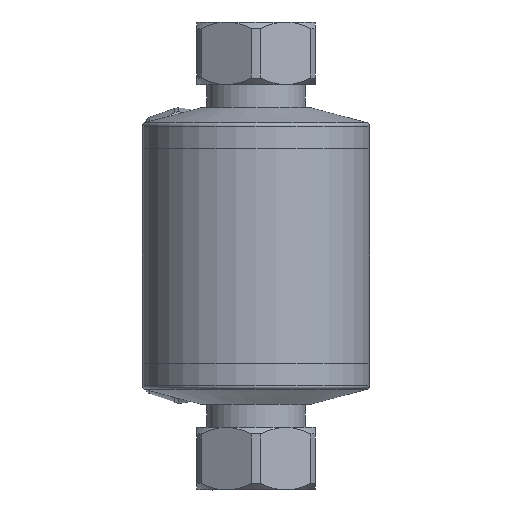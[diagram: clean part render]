
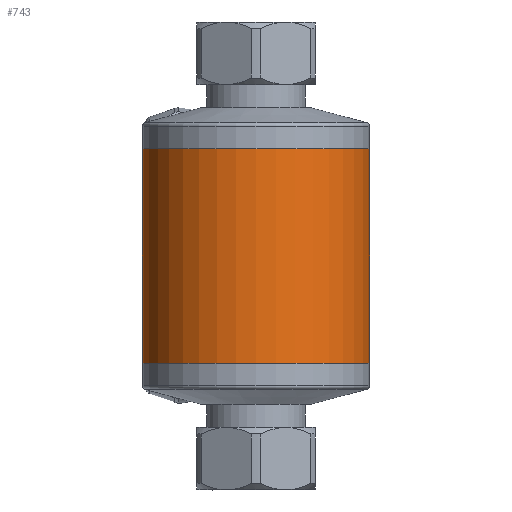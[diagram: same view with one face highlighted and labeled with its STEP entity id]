
A CAD part, front view. The second image highlights one B-rep face of the part: STEP entity #743.
In plain terms, the highlighted cylindrical face has radius 34.5 mm (diameter 69 mm), a full revolution.
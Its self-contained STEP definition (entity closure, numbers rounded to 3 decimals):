
#31=ELLIPSE('',#2802,48.79,34.5);
#32=ELLIPSE('',#2803,48.79,34.5);
#357=LINE('',#11066,#395);
#358=LINE('',#11070,#396);
#395=VECTOR('',#3462,1.);
#396=VECTOR('',#3465,1.);
#743=ADVANCED_FACE('',(#925,#926,#927),#800,.T.);
#800=CYLINDRICAL_SURFACE('',#2806,34.5);
#925=FACE_BOUND('',#1160,.T.);
#926=FACE_BOUND('',#1161,.T.);
#927=FACE_BOUND('',#1162,.T.);
#1160=EDGE_LOOP('',(#1786,#1787,#1788,#1789));
#1161=EDGE_LOOP('',(#1790));
#1162=EDGE_LOOP('',(#1791));
#1786=ORIENTED_EDGE('',*,*,#2337,.T.);
#1787=ORIENTED_EDGE('',*,*,#2338,.F.);
#1788=ORIENTED_EDGE('',*,*,#2339,.T.);
#1789=ORIENTED_EDGE('',*,*,#2340,.F.);
#1790=ORIENTED_EDGE('',*,*,#2341,.F.);
#1791=ORIENTED_EDGE('',*,*,#2342,.T.);
#2022=VERTEX_POINT('',#11064);
#2023=VERTEX_POINT('',#11065);
#2024=VERTEX_POINT('',#11067);
#2025=VERTEX_POINT('',#11069);
#2026=VERTEX_POINT('',#11072);
#2027=VERTEX_POINT('',#11074);
#2337=EDGE_CURVE('',#2022,#2023,#31,.T.);
#2338=EDGE_CURVE('',#2024,#2023,#357,.T.);
#2339=EDGE_CURVE('',#2024,#2025,#32,.T.);
#2340=EDGE_CURVE('',#2022,#2025,#358,.T.);
#2341=EDGE_CURVE('',#2026,#2026,#2493,.T.);
#2342=EDGE_CURVE('',#2027,#2027,#2494,.T.);
#2493=CIRCLE('',#2804,34.5);
#2494=CIRCLE('',#2805,34.5);
#2802=AXIS2_PLACEMENT_3D('',#11063,#3460,#3461);
#2803=AXIS2_PLACEMENT_3D('',#11068,#3463,#3464);
#2804=AXIS2_PLACEMENT_3D('',#11071,#3466,#3467);
#2805=AXIS2_PLACEMENT_3D('',#11073,#3468,#3469);
#2806=AXIS2_PLACEMENT_3D('',#11075,#3470,#3471);
#3460=DIRECTION('',(0.,-0.707,0.707));
#3461=DIRECTION('',(0.,0.707,0.707));
#3462=DIRECTION('',(0.,0.,1.));
#3463=DIRECTION('',(0.,-0.707,-0.707));
#3464=DIRECTION('',(0.,-0.707,0.707));
#3465=DIRECTION('',(0.,0.,-1.));
#3466=DIRECTION('',(0.,0.,1.));
#3467=DIRECTION('',(1.,0.,0.));
#3468=DIRECTION('',(0.,0.,1.));
#3469=DIRECTION('',(1.,0.,0.));
#3470=DIRECTION('',(0.,0.,1.));
#3471=DIRECTION('',(1.,0.,0.));
#11063=CARTESIAN_POINT('',(153.125,0.938,-18.));
#11064=CARTESIAN_POINT('',(166.019,32.938,14.));
#11065=CARTESIAN_POINT('',(140.231,32.938,14.));
#11066=CARTESIAN_POINT('',(140.231,32.938,-4.375));
#11067=CARTESIAN_POINT('',(140.231,32.938,-14.));
#11068=CARTESIAN_POINT('',(153.125,0.938,18.));
#11069=CARTESIAN_POINT('',(166.019,32.938,-14.));
#11070=CARTESIAN_POINT('',(166.019,32.938,-4.375));
#11071=CARTESIAN_POINT('',(153.125,0.938,32.5));
#11072=CARTESIAN_POINT('',(187.625,0.938,32.5));
#11073=CARTESIAN_POINT('',(153.125,0.938,-32.5));
#11074=CARTESIAN_POINT('',(187.625,0.938,-32.5));
#11075=CARTESIAN_POINT('',(153.125,0.938,-4.375));
